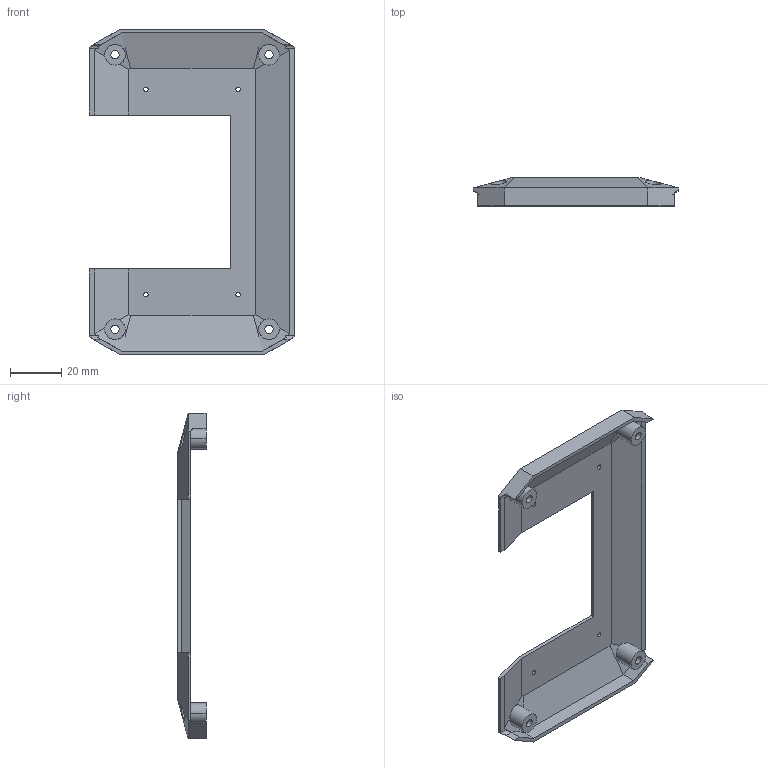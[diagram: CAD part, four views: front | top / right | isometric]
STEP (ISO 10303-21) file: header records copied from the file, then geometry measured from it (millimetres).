
FILE_DESCRIPTION((''),'2;1');
FILE_NAME('OP3_UNDER_FOOT_CASE_VER1','2017-07-24T',('kimdolyang'),(''),'PRO/ENGINEER BY PARAMETRIC TECHNOLOGY CORPORATION, 2013410','PRO/ENGINEER BY PARAMETRIC TECHNOLOGY CORPORATION, 2013410','');
FILE_SCHEMA(('CONFIG_CONTROL_DESIGN'));
Length unit declared in the file: millimetre
Products named in the file (1): OP3_UNDER_FOOT_CASE_VER1
Bounding box: 80 x 11 x 127 mm (x, y, z)
Volume: 12086.1 mm3; surface area: 17423.9 mm2
Topology: 1 solids, 1 shells, 91 faces, 255 edges, 166 vertices
Faces by surface type: plane 55, cylinder 36
Entity records: 3117 total; most frequent: CARTESIAN_POINT 742, ORIENTED_EDGE 510, DIRECTION 445, EDGE_CURVE 255, VERTEX_POINT 166, VECTOR 159, LINE 159, AXIS2_PLACEMENT_3D 143
